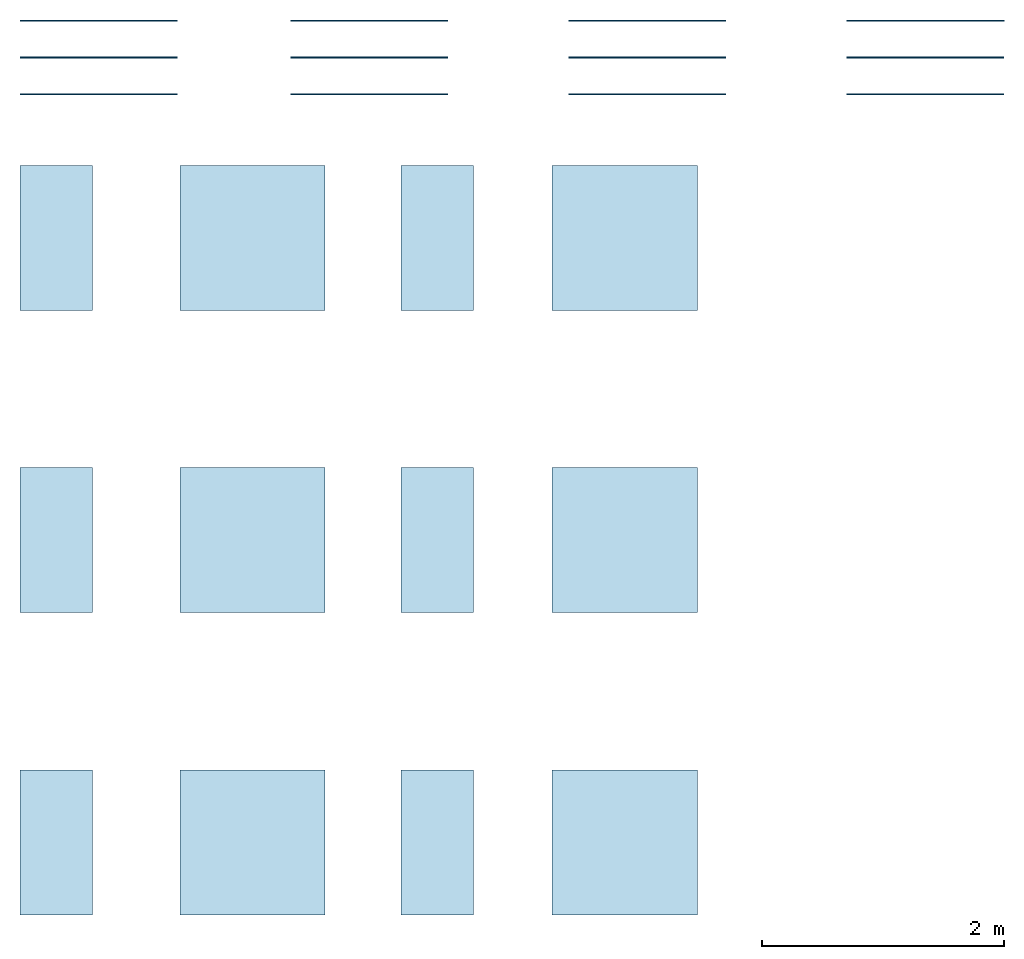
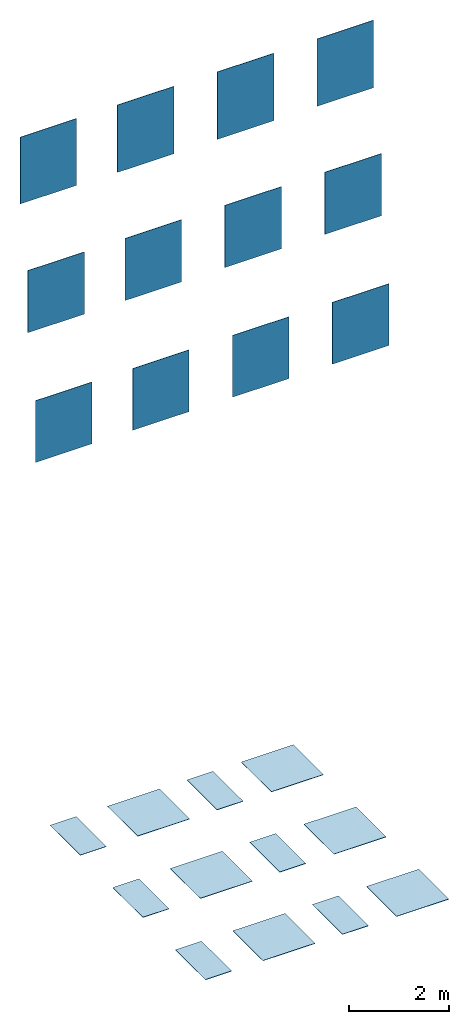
# One storey: 12 slabs, 12 walls.
"""IFC2X3 building model written with IfcOpenShell, lengths in millimetres."""

import ifcopenshell
import ifcopenshell.guid

model = None  # the IFC model being written
_history = None  # IfcOwnerHistory: only IFC2X3 demands one
_inside = {}  # id of a spatial element -> (the spatial element, [elements in it])
_under = {}  # id of a project, library or spatial element -> (it, [spatial elements below it])
_declared = {}  # id of a project -> (the project, [libraries it declares])
_typed = {}  # id of a type object -> (the type object, [elements of that type])
_made_of = {}  # id of a material, layer set ... -> (it, [elements and type objects made of it])


def new_model(schema):
    """Start an empty IFC model of exactly this schema.

    Asked for "IFC4X3", IfcOpenShell would pick the latest addendum, in which some entities
    have other attributes; the version numbers below select the first issue.
    IFC2X3 requires an IfcOwnerHistory on every rooted entity: one is made here for all.
    """
    global model, _history
    if schema == "IFC4X3":
        model = ifcopenshell.file(schema_version=(4, 3, 0, 0))
    else:
        model = ifcopenshell.file(schema=schema)
    _inside.clear()
    _under.clear()
    _declared.clear()
    _typed.clear()
    _made_of.clear()
    _history = None
    if model.schema == "IFC2X3":
        org = make("IfcOrganization", Name="unknown")
        user = make(
            "IfcPersonAndOrganization",
            ThePerson=make("IfcPerson", FamilyName="unknown"),
            TheOrganization=org,
        )
        app = make(
            "IfcApplication",
            ApplicationDeveloper=org,
            Version="unknown",
            ApplicationFullName="unknown",
            ApplicationIdentifier="unknown",
        )
        _history = make(
            "IfcOwnerHistory",
            OwningUser=user,
            OwningApplication=app,
            ChangeAction="ADDED",
            CreationDate=0,
        )
    return model


def make(cls, **values):
    """One entity of the class cls with the attributes given. An attribute that is None is left unset."""
    return model.create_entity(
        cls, **{name: value for name, value in values.items() if value is not None}
    )


def entity(cls, *values):
    """Any entity or typed value of the class cls, its attributes in the order of the schema. None: left unset."""
    e = model.create_entity(cls)
    for i, value in enumerate(values):
        if value is not None:
            e[i] = value
    return e


def rooted(cls, **values):
    """An entity with a GlobalId (a new one), such as an element, a storey or a relation."""
    return make(cls, GlobalId=ifcopenshell.guid.new(), OwnerHistory=_history, **values)


def si_unit(unit_type, name, prefix=None):
    """IfcSIUnit, for example si_unit("LENGTHUNIT", "METRE", prefix="MILLI")."""
    return make("IfcSIUnit", UnitType=unit_type, Prefix=prefix, Name=name)


def converted_unit(unit_type, name, factor, base, dimensions=None, offset=None):
    """IfcConversionBasedUnit, such as the inch: factor (a typed value) times the base unit."""
    return make(
        "IfcConversionBasedUnit"
        if offset is None
        else "IfcConversionBasedUnitWithOffset",
        ConversionOffset=offset,
        Dimensions=None
        if dimensions is None
        else entity("IfcDimensionalExponents", *dimensions),
        UnitType=unit_type,
        Name=name,
        ConversionFactor=make(
            "IfcMeasureWithUnit", ValueComponent=factor, UnitComponent=base
        ),
    )


def derived_unit(unit_type, elements):
    """IfcDerivedUnit: a product of units, each with its exponent."""
    return make(
        "IfcDerivedUnit",
        Elements=[
            make("IfcDerivedUnitElement", Unit=unit, Exponent=power)
            for unit, power in elements
        ],
        UnitType=unit_type,
    )


def assignment(units):
    """IfcUnitAssignment: the units of a project."""
    return None if units is None else make("IfcUnitAssignment", Units=units)


def point(xyz):
    """IfcCartesianPoint."""
    return None if xyz is None else make("IfcCartesianPoint", Coordinates=xyz)


def direction(xyz):
    """IfcDirection."""
    return None if xyz is None else make("IfcDirection", DirectionRatios=xyz)


def frame(location, z_axis=None, x_axis=None):
    """IfcAxis2Placement3D, a coordinate frame: its origin and axes. An axis left out is left unset."""
    return make(
        "IfcAxis2Placement3D",
        Location=point(location),
        Axis=direction(z_axis),
        RefDirection=direction(x_axis),
    )


def frame_2d(location, x_axis=None):
    """IfcAxis2Placement2D, a coordinate frame in the plane: its origin and x axis."""
    return make(
        "IfcAxis2Placement2D", Location=point(location), RefDirection=direction(x_axis)
    )


def origin():
    """The frame at (0, 0, 0) with its axes left unset."""
    return frame((0.0, 0.0, 0.0))


def origin_2d_with_axis():
    """The frame at (0, 0) in the plane with the x axis (1, 0) written out."""
    return frame_2d((0.0, 0.0), x_axis=(1.0, 0.0))


def place(relative_to, where):
    """IfcLocalPlacement: puts the frame where relative to a parent placement (None: the world)."""
    return make(
        "IfcLocalPlacement", PlacementRelTo=relative_to, RelativePlacement=where
    )


def context(
    kind, dimensions, precision=None, world=None, true_north=None, identifier=None
):
    """IfcGeometricRepresentationContext, for example the 3D "Model" context."""
    return make(
        "IfcGeometricRepresentationContext",
        ContextIdentifier=identifier,
        ContextType=kind,
        CoordinateSpaceDimension=dimensions,
        Precision=precision,
        WorldCoordinateSystem=world,
        TrueNorth=true_north,
    )


def subcontext(parent, identifier, kind, view, scale=None):
    """IfcGeometricRepresentationSubContext, for example "Body" below "Model"."""
    return make(
        "IfcGeometricRepresentationSubContext",
        ContextIdentifier=identifier,
        ContextType=kind,
        ParentContext=parent,
        TargetScale=scale,
        TargetView=view,
    )


def project(units=None, contexts=None):
    """IfcProject with its units and contexts."""
    return rooted(
        "IfcProject",
        Name="project",
        RepresentationContexts=contexts,
        UnitsInContext=assignment(units),
    )


def spatial(cls, under=None, at=None, **own):
    """A site, building, storey or space (cls), placed at a placement, below another one or the project."""
    s = rooted(cls, ObjectPlacement=at, **own)
    if under is not None:
        _under.setdefault(under.id(), (under, []))[1].append(s)
    return s


def profile(cls, at=None, kind="AREA", **sizes):
    """A parametric profile (cls). Its sizes go by their IFC names, for example OverallWidth=200.0."""
    return make(cls, ProfileType=kind, Position=at, **sizes)


def rectangle(**sizes):
    """IfcRectangleProfileDef."""
    return profile("IfcRectangleProfileDef", **sizes)


def extrude(swept, where, along, depth):
    """IfcExtrudedAreaSolid: the profile swept, set in the frame where, extruded along a direction by depth."""
    return make(
        "IfcExtrudedAreaSolid",
        SweptArea=swept,
        Position=where,
        ExtrudedDirection=direction(along),
        Depth=depth,
    )


def shape(context_of_items, identifier, shape_type, items):
    """IfcShapeRepresentation: the items that make up one representation, for example the "Body"."""
    return make(
        "IfcShapeRepresentation",
        ContextOfItems=context_of_items,
        RepresentationIdentifier=identifier,
        RepresentationType=shape_type,
        Items=items,
    )


def material(Name=None, Category=None):
    """IfcMaterial."""
    return make("IfcMaterial", Name=Name, Category=Category)


def layer(
    of_material, thickness, ventilated=None, Name=None, Category=None, Priority=None
):
    """IfcMaterialLayer: one layer of a wall or slab, of a material (None: an air gap)."""
    return make(
        "IfcMaterialLayer",
        Material=of_material,
        LayerThickness=thickness,
        IsVentilated=ventilated,
        Name=Name,
        Category=Category,
        Priority=Priority,
    )


def layer_set(layers, Name=None):
    """IfcMaterialLayerSet."""
    return make("IfcMaterialLayerSet", MaterialLayers=layers, LayerSetName=Name)


def layer_usage(for_layer_set, set_direction, sense, offset, extent=None):
    """IfcMaterialLayerSetUsage: how a layer set lies in its element."""
    return make(
        "IfcMaterialLayerSetUsage",
        ForLayerSet=for_layer_set,
        LayerSetDirection=set_direction,
        DirectionSense=sense,
        OffsetFromReferenceLine=offset,
        ReferenceExtent=extent,
    )


def made_of(thing, what):
    """Note that an element or type object is made of a material, layer set ...; save() writes the relation."""
    if what is not None:
        _made_of.setdefault(what.id(), (what, []))[1].append(thing)
    return thing


def type_object(cls, material=None, **own):
    """A type object (cls), such as IfcWallType, which elements share."""
    return made_of(rooted(cls, **own), material)


def element(
    cls,
    number,
    at=None,
    inside=None,
    cuts=None,
    type_object=None,
    material=None,
    context=None,
    identifier="Body",
    shape_type=None,
    held_by="IfcProductDefinitionShape",
    body=None,
    shapes=None,
    **own,
):
    """One element of the class cls, such as IfcWall. Its Tag is "e" and its number.

    at: its placement. inside: the storey or other place that contains it. cuts: it is an
    opening in that element (IfcRelVoidsElement). A single representation is given by context,
    identifier, shape_type and body (its items); several are given by shapes. held_by: the class
    of the entity that holds the representations. save() writes the other relations.
    """
    e = rooted(cls, Tag="e%d" % number, ObjectPlacement=at, **own)
    if body is not None:
        shapes = [shape(context, identifier, shape_type, body)]
    if shapes is not None:
        e.Representation = make(held_by, Representations=shapes)
    if inside is not None:
        _inside.setdefault(inside.id(), (inside, []))[1].append(e)
    if cuts is not None:
        rooted(
            "IfcRelVoidsElement", RelatingBuildingElement=cuts, RelatedOpeningElement=e
        )
    if type_object is not None:
        _typed.setdefault(type_object.id(), (type_object, []))[1].append(e)
    return made_of(e, material)


def aggregate(whole, parts):
    """IfcRelAggregates: a whole, such as a stair, and the parts it consists of."""
    return rooted("IfcRelAggregates", RelatingObject=whole, RelatedObjects=parts)


def save(model, path):
    """Write the relations noted so far, then the file.

    IfcRelAggregates (storeys below a building ...), IfcRelContainedInSpatialStructure (elements
    in a storey), IfcRelDefinesByType, IfcRelAssociatesMaterial and IfcRelDeclares: one each for
    every whole, place, type object, material and project.
    """
    for whole, parts in _under.values():
        aggregate(whole, parts)
    for where, things in _inside.values():
        rooted(
            "IfcRelContainedInSpatialStructure",
            RelatedElements=things,
            RelatingStructure=where,
        )
    for kind, things in _typed.values():
        rooted("IfcRelDefinesByType", RelatedObjects=things, RelatingType=kind)
    for what, things in _made_of.values():
        rooted("IfcRelAssociatesMaterial", RelatedObjects=things, RelatingMaterial=what)
    for by, libraries in _declared.values():
        rooted("IfcRelDeclares", RelatingContext=by, RelatedDefinitions=libraries)
    model.write(path)


model = new_model("IFC2X3")

# Units and contexts
model_context = context("Model", 3, precision=0.01, world=origin(), true_north=direction((6.123031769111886e-17, 1.0)))
body_context = subcontext(model_context, "Body", "Model", "MODEL_VIEW")
ifc_project = project(units=[si_unit("LENGTHUNIT", "METRE", prefix="MILLI"), si_unit("AREAUNIT", "SQUARE_METRE"), si_unit("VOLUMEUNIT", "CUBIC_METRE"), converted_unit("PLANEANGLEUNIT", "DEGREE", entity("IfcPlaneAngleMeasure", 0.017453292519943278), si_unit("PLANEANGLEUNIT", "RADIAN"), dimensions=[0, 0, 0, 0, 0, 0, 0]), si_unit("MASSUNIT", "GRAM", prefix="KILO"), derived_unit("MASSDENSITYUNIT", [(si_unit("MASSUNIT", "GRAM", prefix="KILO"), 1), (si_unit("LENGTHUNIT", "METRE"), -3)]), derived_unit("IONCONCENTRATIONUNIT", [(si_unit("MASSUNIT", "GRAM", prefix="KILO"), 1), (si_unit("LENGTHUNIT", "METRE"), -3)]), derived_unit("MOMENTOFINERTIAUNIT", [(si_unit("LENGTHUNIT", "METRE"), 4)]), si_unit("TIMEUNIT", "SECOND"), si_unit("FREQUENCYUNIT", "HERTZ"), si_unit("THERMODYNAMICTEMPERATUREUNIT", "DEGREE_CELSIUS"), derived_unit("THERMALTRANSMITTANCEUNIT", [(si_unit("MASSUNIT", "GRAM", prefix="KILO"), 1), (si_unit("THERMODYNAMICTEMPERATUREUNIT", "KELVIN"), -1), (si_unit("TIMEUNIT", "SECOND"), -3)]), derived_unit("THERMALCONDUCTANCEUNIT", [(si_unit("MASSUNIT", "GRAM", prefix="KILO"), 1), (si_unit("THERMODYNAMICTEMPERATUREUNIT", "KELVIN"), -1), (si_unit("TIMEUNIT", "SECOND"), -3), (si_unit("LENGTHUNIT", "METRE"), 1)]), derived_unit("VOLUMETRICFLOWRATEUNIT", [(si_unit("LENGTHUNIT", "METRE", prefix="DECI"), 3), (si_unit("TIMEUNIT", "SECOND"), -1)]), derived_unit("MASSFLOWRATEUNIT", [(si_unit("MASSUNIT", "GRAM", prefix="KILO"), 1), (si_unit("TIMEUNIT", "SECOND"), -1)]), derived_unit("ROTATIONALFREQUENCYUNIT", [(si_unit("TIMEUNIT", "SECOND"), -1)]), si_unit("ELECTRICCURRENTUNIT", "AMPERE"), si_unit("ELECTRICVOLTAGEUNIT", "VOLT"), si_unit("POWERUNIT", "WATT"), si_unit("FORCEUNIT", "NEWTON", prefix="KILO"), si_unit("ILLUMINANCEUNIT", "LUX"), si_unit("LUMINOUSFLUXUNIT", "LUMEN"), si_unit("LUMINOUSINTENSITYUNIT", "CANDELA"), si_unit("ENERGYUNIT", "JOULE"), derived_unit("USERDEFINED", [(si_unit("MASSUNIT", "GRAM", prefix="KILO"), -1), (si_unit("LENGTHUNIT", "METRE"), -2), (si_unit("TIMEUNIT", "SECOND"), 3), (si_unit("LUMINOUSFLUXUNIT", "LUMEN"), 1)]), derived_unit("USERDEFINED", [(si_unit("MASSUNIT", "GRAM", prefix="KILO"), 1), (si_unit("TIMEUNIT", "SECOND"), -3), (si_unit("LENGTHUNIT", "METRE"), 3), (si_unit("ELECTRICCURRENTUNIT", "AMPERE"), -2)]), derived_unit("SOUNDPOWERUNIT", [(si_unit("MASSUNIT", "GRAM", prefix="KILO"), 1), (si_unit("TIMEUNIT", "SECOND"), -3), (si_unit("LENGTHUNIT", "METRE"), 2)]), derived_unit("SOUNDPRESSUREUNIT", [(si_unit("MASSUNIT", "GRAM", prefix="KILO"), 1), (si_unit("LENGTHUNIT", "METRE"), -1), (si_unit("TIMEUNIT", "SECOND"), -2)]), derived_unit("LINEARVELOCITYUNIT", [(si_unit("LENGTHUNIT", "METRE"), 1), (si_unit("TIMEUNIT", "SECOND"), -1)]), si_unit("PRESSUREUNIT", "PASCAL"), derived_unit("USERDEFINED", [(si_unit("MASSUNIT", "GRAM", prefix="KILO"), 1), (si_unit("LENGTHUNIT", "METRE"), -2), (si_unit("TIMEUNIT", "SECOND"), -2)]), derived_unit("LINEARFORCEUNIT", [(si_unit("MASSUNIT", "GRAM", prefix="KILO"), 1), (si_unit("TIMEUNIT", "SECOND"), -2)]), derived_unit("PLANARFORCEUNIT", [(si_unit("MASSUNIT", "GRAM", prefix="KILO"), 1), (si_unit("LENGTHUNIT", "METRE"), -1), (si_unit("TIMEUNIT", "SECOND"), -2)]), derived_unit("SPECIFICHEATCAPACITYUNIT", [(si_unit("THERMODYNAMICTEMPERATUREUNIT", "KELVIN"), -1), (si_unit("LENGTHUNIT", "METRE"), 2), (si_unit("TIMEUNIT", "SECOND"), -2)]), derived_unit("HEATFLUXDENSITYUNIT", [(si_unit("MASSUNIT", "GRAM", prefix="KILO"), 1), (si_unit("TIMEUNIT", "SECOND"), -3)]), derived_unit("HEATINGVALUEUNIT", [(si_unit("LENGTHUNIT", "METRE"), 2), (si_unit("TIMEUNIT", "SECOND"), -2)]), derived_unit("VAPORPERMEABILITYUNIT", [(si_unit("LENGTHUNIT", "METRE"), -1), (si_unit("TIMEUNIT", "SECOND"), 1)]), derived_unit("DYNAMICVISCOSITYUNIT", [(si_unit("MASSUNIT", "GRAM", prefix="KILO"), 1), (si_unit("TIMEUNIT", "SECOND"), -1), (si_unit("LENGTHUNIT", "METRE"), -1)]), derived_unit("THERMALEXPANSIONCOEFFICIENTUNIT", [(si_unit("THERMODYNAMICTEMPERATUREUNIT", "KELVIN"), -1)]), derived_unit("MODULUSOFELASTICITYUNIT", [(si_unit("MASSUNIT", "GRAM", prefix="KILO"), 1), (si_unit("LENGTHUNIT", "METRE"), -1), (si_unit("TIMEUNIT", "SECOND"), -2)]), derived_unit("ISOTHERMALMOISTURECAPACITYUNIT", [(si_unit("MASSUNIT", "GRAM", prefix="KILO"), -1), (si_unit("LENGTHUNIT", "METRE"), 3)]), derived_unit("MOISTUREDIFFUSIVITYUNIT", [(si_unit("TIMEUNIT", "SECOND"), -1), (si_unit("LENGTHUNIT", "METRE"), 2)]), derived_unit("MASSPERLENGTHUNIT", [(si_unit("MASSUNIT", "GRAM", prefix="KILO"), 1), (si_unit("LENGTHUNIT", "METRE"), -1)]), derived_unit("THERMALRESISTANCEUNIT", [(si_unit("MASSUNIT", "GRAM", prefix="KILO"), -1), (si_unit("TIMEUNIT", "SECOND"), 3), (si_unit("THERMODYNAMICTEMPERATUREUNIT", "KELVIN"), 1)]), derived_unit("ACCELERATIONUNIT", [(si_unit("LENGTHUNIT", "METRE"), 1), (si_unit("TIMEUNIT", "SECOND"), -2)]), derived_unit("ANGULARVELOCITYUNIT", [(si_unit("TIMEUNIT", "SECOND"), -1), (si_unit("PLANEANGLEUNIT", "RADIAN"), 1)]), derived_unit("LINEARSTIFFNESSUNIT", [(si_unit("MASSUNIT", "GRAM", prefix="KILO"), 1), (si_unit("TIMEUNIT", "SECOND"), -2)]), derived_unit("WARPINGCONSTANTUNIT", [(si_unit("LENGTHUNIT", "METRE"), 6)]), derived_unit("LINEARMOMENTUNIT", [(si_unit("MASSUNIT", "GRAM", prefix="KILO"), 1), (si_unit("LENGTHUNIT", "METRE"), 1), (si_unit("TIMEUNIT", "SECOND"), -2)]), derived_unit("TORQUEUNIT", [(si_unit("MASSUNIT", "GRAM", prefix="KILO"), 1), (si_unit("LENGTHUNIT", "METRE"), 2), (si_unit("TIMEUNIT", "SECOND"), -2)])], contexts=[model_context])

# Site, building, storey
site_placement = place(None, origin())
site = spatial("IfcSite", under=ifc_project, at=site_placement, Name="Default", CompositionType="ELEMENT")
building_placement = place(site_placement, origin())
building = spatial("IfcBuilding", under=site, at=building_placement, CompositionType="ELEMENT")
storey_placement = place(building_placement, origin())
storey = spatial("IfcBuildingStorey", under=building, at=storey_placement, Name="Level 0", CompositionType="ELEMENT", Elevation=0.0)

# Slabs
ifc_material_1 = material(Name="Cera-Scaglie-Fumo-Cerasilk-60x120 RF40")
ifc_layer_1 = layer(ifc_material_1, 9.0)
ifc_material_2 = material(Name="<Unnamed>")
ifc_layer_2 = layer(ifc_material_2, 1.0)
ifc_layer_set_1 = layer_set([ifc_layer_1, ifc_layer_2], Name="Floor:Floor_Tiles_Refin-Cera-Scaglie-Fumo-Cerasilk-60x120 RF40")
ifc_layer_usage_1 = layer_usage(ifc_layer_set_1, "AXIS3", "POSITIVE", 0.0)
slab_type_1 = type_object("IfcSlabType", Name="Floor:Floor_Tiles_Refin-Cera-Scaglie-Fumo-Cerasilk-60x120 RF40", PredefinedType="FLOOR", material=ifc_layer_set_1)
slab_1_placement = place(storey_placement, origin())
element("IfcSlab", 1, at=slab_1_placement, inside=storey, type_object=slab_type_1, material=ifc_layer_usage_1, Name="Floor:Floor_Tiles_Refin-Cera-Scaglie-Fumo-Cerasilk-60x120 RF40", ObjectType="Floor:Floor_Tiles_Refin-Cera-Scaglie-Fumo-Cerasilk-60x120 RF40", PredefinedType="FLOOR", context=body_context, shape_type="SweptSolid", body=[
    extrude(rectangle(XDim=1200.0, YDim=600.0, at=frame_2d((0.0, -1.0800249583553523e-12), x_axis=(1.0, 0.0))), frame((6674.3752061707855, 6339.462374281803, 0.0), z_axis=(0.0, 0.0, -1.0), x_axis=(0.0, 1.0, 0.0)), (0.0, 0.0, 1.0), 10.0),
])
ifc_material_3 = material(Name="Cera-Scaglie-Fumo-Cerasilk-120x120 RG00")
ifc_layer_3 = layer(ifc_material_3, 9.0)
ifc_layer_4 = layer(ifc_material_2, 1.0)
ifc_layer_set_2 = layer_set([ifc_layer_3, ifc_layer_4], Name="Floor:Floor_Tiles_Refin-Cera-Scaglie-Fumo-Cerasilk-120x120 RG00")
ifc_layer_usage_2 = layer_usage(ifc_layer_set_2, "AXIS3", "POSITIVE", 0.0)
slab_type_2 = type_object("IfcSlabType", Name="Floor:Floor_Tiles_Refin-Cera-Scaglie-Fumo-Cerasilk-120x120 RG00", PredefinedType="FLOOR", material=ifc_layer_set_2)
slab_2_placement = place(storey_placement, origin())
element("IfcSlab", 2, at=slab_2_placement, inside=storey, type_object=slab_type_2, material=ifc_layer_usage_2, Name="Floor:Floor_Tiles_Refin-Cera-Scaglie-Fumo-Cerasilk-120x120 RG00", ObjectType="Floor:Floor_Tiles_Refin-Cera-Scaglie-Fumo-Cerasilk-120x120 RG00", PredefinedType="FLOOR", context=body_context, shape_type="SweptSolid", body=[
    extrude(rectangle(XDim=1200.0, YDim=1200.0, at=origin_2d_with_axis()), frame((8297.392405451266, 6339.4623742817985, 0.0), z_axis=(0.0, 0.0, -1.0), x_axis=(0.0, 1.0, 0.0)), (0.0, 0.0, 1.0), 10.0),
])
ifc_material_4 = material(Name="Cera-Scaglie-Fumo-Matt-Pro-60x120 RG06")
ifc_layer_5 = layer(ifc_material_4, 9.0)
ifc_layer_6 = layer(ifc_material_2, 1.0)
ifc_layer_set_3 = layer_set([ifc_layer_5, ifc_layer_6], Name="Floor:Floor_Tiles_Refin-Cera-Scaglie-Fumo-Matt-Pro-60x120 RG06")
ifc_layer_usage_3 = layer_usage(ifc_layer_set_3, "AXIS3", "POSITIVE", 0.0)
slab_type_3 = type_object("IfcSlabType", Name="Floor:Floor_Tiles_Refin-Cera-Scaglie-Fumo-Matt-Pro-60x120 RG06", PredefinedType="FLOOR", material=ifc_layer_set_3)
slab_3_placement = place(storey_placement, origin())
element("IfcSlab", 3, at=slab_3_placement, inside=storey, type_object=slab_type_3, material=ifc_layer_usage_3, Name="Floor:Floor_Tiles_Refin-Cera-Scaglie-Fumo-Matt-Pro-60x120 RG06", ObjectType="Floor:Floor_Tiles_Refin-Cera-Scaglie-Fumo-Matt-Pro-60x120 RG06", PredefinedType="FLOOR", context=body_context, shape_type="SweptSolid", body=[
    extrude(rectangle(XDim=1200.0, YDim=600.0, at=frame_2d((0.0, 1.0800249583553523e-12), x_axis=(1.0, 0.0))), frame((9827.186141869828, 6339.462374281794, 0.0), z_axis=(0.0, 0.0, -1.0), x_axis=(0.0, 1.0, 0.0)), (0.0, 0.0, 1.0), 10.0),
])
ifc_material_5 = material(Name="Cera-Scaglie-Fumo-Matt-Pro-120x120 RG03")
ifc_layer_7 = layer(ifc_material_5, 9.0)
ifc_layer_8 = layer(ifc_material_2, 1.0)
ifc_layer_set_4 = layer_set([ifc_layer_7, ifc_layer_8], Name="Floor:Floor_Tiles_Refin-Cera-Scaglie-Fumo-Matt-Pro-120x120 RG03")
ifc_layer_usage_4 = layer_usage(ifc_layer_set_4, "AXIS3", "POSITIVE", 0.0)
slab_type_4 = type_object("IfcSlabType", Name="Floor:Floor_Tiles_Refin-Cera-Scaglie-Fumo-Matt-Pro-120x120 RG03", PredefinedType="FLOOR", material=ifc_layer_set_4)
slab_4_placement = place(storey_placement, origin())
element("IfcSlab", 4, at=slab_4_placement, inside=storey, type_object=slab_type_4, material=ifc_layer_usage_4, Name="Floor:Floor_Tiles_Refin-Cera-Scaglie-Fumo-Matt-Pro-120x120 RG03", ObjectType="Floor:Floor_Tiles_Refin-Cera-Scaglie-Fumo-Matt-Pro-120x120 RG03", PredefinedType="FLOOR", context=body_context, shape_type="SweptSolid", body=[
    extrude(rectangle(XDim=1200.0, YDim=1200.0, at=origin_2d_with_axis()), frame((11376.979878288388, 6339.462374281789, 0.0), z_axis=(0.0, 0.0, -1.0), x_axis=(0.0, 1.0, 0.0)), (0.0, 0.0, 1.0), 10.0),
])
ifc_material_6 = material(Name="Cera-Scaglie-Incenso-Cerasilk-60x120 RF41")
ifc_layer_9 = layer(ifc_material_6, 9.0)
ifc_layer_10 = layer(ifc_material_2, 1.0)
ifc_layer_set_5 = layer_set([ifc_layer_9, ifc_layer_10], Name="Floor:Floor_Tiles_Refin-Cera-Scaglie-Incenso-Cerasilk-60x120 RF41")
ifc_layer_usage_5 = layer_usage(ifc_layer_set_5, "AXIS3", "POSITIVE", 0.0)
slab_type_5 = type_object("IfcSlabType", Name="Floor:Floor_Tiles_Refin-Cera-Scaglie-Incenso-Cerasilk-60x120 RF41", PredefinedType="FLOOR", material=ifc_layer_set_5)
slab_5_placement = place(storey_placement, origin())
element("IfcSlab", 5, at=slab_5_placement, inside=storey, type_object=slab_type_5, material=ifc_layer_usage_5, Name="Floor:Floor_Tiles_Refin-Cera-Scaglie-Incenso-Cerasilk-60x120 RF41", ObjectType="Floor:Floor_Tiles_Refin-Cera-Scaglie-Incenso-Cerasilk-60x120 RF41", PredefinedType="FLOOR", context=body_context, shape_type="SweptSolid", body=[
    extrude(rectangle(XDim=1200.0, YDim=600.0, at=frame_2d((0.0, 1.0800249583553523e-12), x_axis=(1.0, 0.0))), frame((6674.375206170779, 3839.4623742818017, 0.0), z_axis=(0.0, 0.0, -1.0), x_axis=(0.0, 1.0, 0.0)), (0.0, 0.0, 1.0), 10.0),
])
ifc_material_7 = material(Name="Cera-Scaglie-Incenso-Cerasilk-120x120 RG01")
ifc_layer_11 = layer(ifc_material_7, 9.0)
ifc_layer_12 = layer(ifc_material_2, 1.0)
ifc_layer_set_6 = layer_set([ifc_layer_11, ifc_layer_12], Name="Floor:Floor_Tiles_Refin-Cera-Scaglie-Incenso-Cerasilk-120x120 RG01")
ifc_layer_usage_6 = layer_usage(ifc_layer_set_6, "AXIS3", "POSITIVE", 0.0)
slab_type_6 = type_object("IfcSlabType", Name="Floor:Floor_Tiles_Refin-Cera-Scaglie-Incenso-Cerasilk-120x120 RG01", PredefinedType="FLOOR", material=ifc_layer_set_6)
slab_6_placement = place(storey_placement, origin())
element("IfcSlab", 6, at=slab_6_placement, inside=storey, type_object=slab_type_6, material=ifc_layer_usage_6, Name="Floor:Floor_Tiles_Refin-Cera-Scaglie-Incenso-Cerasilk-120x120 RG01", ObjectType="Floor:Floor_Tiles_Refin-Cera-Scaglie-Incenso-Cerasilk-120x120 RG01", PredefinedType="FLOOR", context=body_context, shape_type="SweptSolid", body=[
    extrude(rectangle(XDim=1200.0, YDim=1200.0, at=origin_2d_with_axis()), frame((8297.392405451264, 3839.462374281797, 0.0), z_axis=(0.0, 0.0, -1.0), x_axis=(0.0, 1.0, 0.0)), (0.0, 0.0, 1.0), 10.0),
])
ifc_material_8 = material(Name="Cera-Scaglie-Incenso-Matt-Pro-60x120 RG07")
ifc_layer_13 = layer(ifc_material_8, 9.0)
ifc_layer_14 = layer(ifc_material_2, 1.0)
ifc_layer_set_7 = layer_set([ifc_layer_13, ifc_layer_14], Name="Floor:Floor_Tiles_Refin-Cera-Scaglie-Incenso-Matt-Pro-60x120 RG07")
ifc_layer_usage_7 = layer_usage(ifc_layer_set_7, "AXIS3", "POSITIVE", 0.0)
slab_type_7 = type_object("IfcSlabType", Name="Floor:Floor_Tiles_Refin-Cera-Scaglie-Incenso-Matt-Pro-60x120 RG07", PredefinedType="FLOOR", material=ifc_layer_set_7)
slab_7_placement = place(storey_placement, origin())
element("IfcSlab", 7, at=slab_7_placement, inside=storey, type_object=slab_type_7, material=ifc_layer_usage_7, Name="Floor:Floor_Tiles_Refin-Cera-Scaglie-Incenso-Matt-Pro-60x120 RG07", ObjectType="Floor:Floor_Tiles_Refin-Cera-Scaglie-Incenso-Matt-Pro-60x120 RG07", PredefinedType="FLOOR", context=body_context, shape_type="SweptSolid", body=[
    extrude(rectangle(XDim=1200.0, YDim=600.0, at=frame_2d((0.0, -1.0800249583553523e-12), x_axis=(1.0, 0.0))), frame((9827.186141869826, 3839.462374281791, 0.0), z_axis=(0.0, 0.0, -1.0), x_axis=(0.0, 1.0, 0.0)), (0.0, 0.0, 1.0), 10.0),
])
ifc_material_9 = material(Name="Cera-Scaglie-Incenso-Matt-Pro-120x120 RG04")
ifc_layer_15 = layer(ifc_material_9, 9.0)
ifc_layer_16 = layer(ifc_material_2, 1.0)
ifc_layer_set_8 = layer_set([ifc_layer_15, ifc_layer_16], Name="Floor:Floor_Tiles_Refin-Cera-Scaglie-Incenso-Matt-Pro-120x120 RG04")
ifc_layer_usage_8 = layer_usage(ifc_layer_set_8, "AXIS3", "POSITIVE", 0.0)
slab_type_8 = type_object("IfcSlabType", Name="Floor:Floor_Tiles_Refin-Cera-Scaglie-Incenso-Matt-Pro-120x120 RG04", PredefinedType="FLOOR", material=ifc_layer_set_8)
slab_8_placement = place(storey_placement, origin())
element("IfcSlab", 8, at=slab_8_placement, inside=storey, type_object=slab_type_8, material=ifc_layer_usage_8, Name="Floor:Floor_Tiles_Refin-Cera-Scaglie-Incenso-Matt-Pro-120x120 RG04", ObjectType="Floor:Floor_Tiles_Refin-Cera-Scaglie-Incenso-Matt-Pro-120x120 RG04", PredefinedType="FLOOR", context=body_context, shape_type="SweptSolid", body=[
    extrude(rectangle(XDim=1200.0, YDim=1200.0, at=origin_2d_with_axis()), frame((11376.979878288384, 3839.4623742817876, 0.0), z_axis=(0.0, 0.0, -1.0), x_axis=(0.0, 1.0, 0.0)), (0.0, 0.0, 1.0), 10.0),
])
ifc_material_10 = material(Name="Cera-Scaglie-Multicolor-Cerasilk-60x120 RF42")
ifc_layer_17 = layer(ifc_material_10, 9.0)
ifc_layer_18 = layer(ifc_material_2, 1.0)
ifc_layer_set_9 = layer_set([ifc_layer_17, ifc_layer_18], Name="Floor:Floor_Tiles_Refin-Cera-Scaglie-Multicolor-Cerasilk-60x120 RF42")
ifc_layer_usage_9 = layer_usage(ifc_layer_set_9, "AXIS3", "POSITIVE", 0.0)
slab_type_9 = type_object("IfcSlabType", Name="Floor:Floor_Tiles_Refin-Cera-Scaglie-Multicolor-Cerasilk-60x120 RF42", PredefinedType="FLOOR", material=ifc_layer_set_9)
slab_9_placement = place(storey_placement, origin())
element("IfcSlab", 9, at=slab_9_placement, inside=storey, type_object=slab_type_9, material=ifc_layer_usage_9, Name="Floor:Floor_Tiles_Refin-Cera-Scaglie-Multicolor-Cerasilk-60x120 RF42", ObjectType="Floor:Floor_Tiles_Refin-Cera-Scaglie-Multicolor-Cerasilk-60x120 RF42", PredefinedType="FLOOR", context=body_context, shape_type="SweptSolid", body=[
    extrude(rectangle(XDim=1200.0, YDim=600.0, at=frame_2d((0.0, -1.0800249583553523e-12), x_axis=(1.0, 0.0))), frame((6674.375206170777, 1339.4623742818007, 0.0), z_axis=(0.0, 0.0, -1.0), x_axis=(0.0, 1.0, 0.0)), (0.0, 0.0, 1.0), 10.0),
])
ifc_material_11 = material(Name="Cera-Scaglie-Multicolor-Cerasilk-120x120 RG02")
ifc_layer_19 = layer(ifc_material_11, 9.0)
ifc_layer_20 = layer(ifc_material_2, 1.0)
ifc_layer_set_10 = layer_set([ifc_layer_19, ifc_layer_20], Name="Floor:Floor_Tiles_Refin-Cera-Scaglie-Multicolor-Cerasilk-120x120 RG02")
ifc_layer_usage_10 = layer_usage(ifc_layer_set_10, "AXIS3", "POSITIVE", 0.0)
slab_type_10 = type_object("IfcSlabType", Name="Floor:Floor_Tiles_Refin-Cera-Scaglie-Multicolor-Cerasilk-120x120 RG02", PredefinedType="FLOOR", material=ifc_layer_set_10)
slab_10_placement = place(storey_placement, origin())
element("IfcSlab", 10, at=slab_10_placement, inside=storey, type_object=slab_type_10, material=ifc_layer_usage_10, Name="Floor:Floor_Tiles_Refin-Cera-Scaglie-Multicolor-Cerasilk-120x120 RG02", ObjectType="Floor:Floor_Tiles_Refin-Cera-Scaglie-Multicolor-Cerasilk-120x120 RG02", PredefinedType="FLOOR", context=body_context, shape_type="SweptSolid", body=[
    extrude(rectangle(XDim=1200.0, YDim=1200.0, at=origin_2d_with_axis()), frame((8297.39240545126, 1339.4623742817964, 0.0), z_axis=(0.0, 0.0, -1.0), x_axis=(0.0, 1.0, 0.0)), (0.0, 0.0, 1.0), 10.0),
])
ifc_material_12 = material(Name="Cera-Scaglie-Multicolor-Matt-Pro-60x120 RG08")
ifc_layer_21 = layer(ifc_material_12, 9.0)
ifc_layer_22 = layer(ifc_material_2, 1.0)
ifc_layer_set_11 = layer_set([ifc_layer_21, ifc_layer_22], Name="Floor:Floor_Tiles_Refin-Cera-Scaglie-Multicolor-Matt-Pro-60x120 RG08")
ifc_layer_usage_11 = layer_usage(ifc_layer_set_11, "AXIS3", "POSITIVE", 0.0)
slab_type_11 = type_object("IfcSlabType", Name="Floor:Floor_Tiles_Refin-Cera-Scaglie-Multicolor-Matt-Pro-60x120 RG08", PredefinedType="FLOOR", material=ifc_layer_set_11)
slab_11_placement = place(storey_placement, origin())
element("IfcSlab", 11, at=slab_11_placement, inside=storey, type_object=slab_type_11, material=ifc_layer_usage_11, Name="Floor:Floor_Tiles_Refin-Cera-Scaglie-Multicolor-Matt-Pro-60x120 RG08", ObjectType="Floor:Floor_Tiles_Refin-Cera-Scaglie-Multicolor-Matt-Pro-60x120 RG08", PredefinedType="FLOOR", context=body_context, shape_type="SweptSolid", body=[
    extrude(rectangle(XDim=1200.0, YDim=600.0, at=frame_2d((0.0, 1.0800249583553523e-12), x_axis=(1.0, 0.0))), frame((9827.18614186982, 1339.462374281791, 0.0), z_axis=(0.0, 0.0, -1.0), x_axis=(0.0, 1.0, 0.0)), (0.0, 0.0, 1.0), 10.0),
])
ifc_material_13 = material(Name="Cera-Scaglie-Multicolor-Matt-Pro-120x120 RG05")
ifc_layer_23 = layer(ifc_material_13, 9.0)
ifc_layer_24 = layer(ifc_material_2, 1.0)
ifc_layer_set_12 = layer_set([ifc_layer_23, ifc_layer_24], Name="Floor:Floor_Tiles_Refin-Cera-Scaglie-Multicolor-Matt-Pro-120x120 RG05")
ifc_layer_usage_12 = layer_usage(ifc_layer_set_12, "AXIS3", "POSITIVE", 0.0)
slab_type_12 = type_object("IfcSlabType", Name="Floor:Floor_Tiles_Refin-Cera-Scaglie-Multicolor-Matt-Pro-120x120 RG05", PredefinedType="FLOOR", material=ifc_layer_set_12)
slab_12_placement = place(storey_placement, origin())
element("IfcSlab", 12, at=slab_12_placement, inside=storey, type_object=slab_type_12, material=ifc_layer_usage_12, Name="Floor:Floor_Tiles_Refin-Cera-Scaglie-Multicolor-Matt-Pro-120x120 RG05", ObjectType="Floor:Floor_Tiles_Refin-Cera-Scaglie-Multicolor-Matt-Pro-120x120 RG05", PredefinedType="FLOOR", context=body_context, shape_type="SweptSolid", body=[
    extrude(rectangle(XDim=1200.0, YDim=1200.0, at=origin_2d_with_axis()), frame((11376.979878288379, 1339.4623742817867, 0.0), z_axis=(0.0, 0.0, -1.0), x_axis=(0.0, 1.0, 0.0)), (0.0, 0.0, 1.0), 10.0),
])

# Walls
ifc_layer_25 = layer(ifc_material_2, 1.0)
ifc_layer_26 = layer(ifc_material_3, 9.0)
ifc_layer_set_13 = layer_set([ifc_layer_25, ifc_layer_26], Name="Basic Wall:Wall_Tiles_Refin-Cera-Scaglie-Fumo-Cerasilk-120x120 RG00")
ifc_layer_usage_13 = layer_usage(ifc_layer_set_13, "AXIS2", "NEGATIVE", 5.000000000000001)
wall_type_1 = type_object("IfcWallType", Name="Basic Wall:Wall_Tiles_Refin-Cera-Scaglie-Fumo-Cerasilk-120x120 RG00", PredefinedType="STANDARD", material=ifc_layer_set_13)
wall_1_placement = place(storey_placement, frame((8614.375206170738, 8137.38386313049, 14387.677044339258)))
element("IfcWallStandardCase", 13, at=wall_1_placement, inside=storey, type_object=wall_type_1, material=ifc_layer_usage_13, Name="Basic Wall:Wall_Tiles_Refin-Cera-Scaglie-Fumo-Cerasilk-120x120 RG00", ObjectType="Basic Wall:Wall_Tiles_Refin-Cera-Scaglie-Fumo-Cerasilk-120x120 RG00", context=body_context, shape_type="SweptSolid", body=[
    extrude(rectangle(XDim=1300.0, YDim=9.999999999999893, at=frame_2d((650.0, 7.638334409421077e-14), x_axis=(-1.0, 0.0))), origin(), (0.0, 0.0, 1.0), 1641.7417352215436),
])
ifc_layer_27 = layer(ifc_material_2, 1.0)
ifc_layer_28 = layer(ifc_material_4, 9.0)
ifc_layer_set_14 = layer_set([ifc_layer_27, ifc_layer_28], Name="Basic Wall:Wall_Tiles_Refin-Cera-Scaglie-Fumo-Matt-Pro-60x120 RG06")
ifc_layer_usage_14 = layer_usage(ifc_layer_set_14, "AXIS2", "NEGATIVE", 5.000000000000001)
wall_type_2 = type_object("IfcWallType", Name="Basic Wall:Wall_Tiles_Refin-Cera-Scaglie-Fumo-Matt-Pro-60x120 RG06", PredefinedType="STANDARD", material=ifc_layer_set_14)
wall_2_placement = place(storey_placement, frame((10914.37520617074, 8137.383863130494, 14387.677044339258)))
element("IfcWallStandardCase", 14, at=wall_2_placement, inside=storey, type_object=wall_type_2, material=ifc_layer_usage_14, Name="Basic Wall:Wall_Tiles_Refin-Cera-Scaglie-Fumo-Matt-Pro-60x120 RG06", ObjectType="Basic Wall:Wall_Tiles_Refin-Cera-Scaglie-Fumo-Matt-Pro-60x120 RG06", context=body_context, shape_type="SweptSolid", body=[
    extrude(rectangle(XDim=1299.999999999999, YDim=9.999999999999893, at=frame_2d((649.9999999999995, 7.638334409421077e-14), x_axis=(-1.0, 0.0))), origin(), (0.0, 0.0, 1.0), 1641.7417352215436),
])
ifc_layer_29 = layer(ifc_material_2, 1.0)
ifc_layer_30 = layer(ifc_material_1, 9.0)
ifc_layer_set_15 = layer_set([ifc_layer_29, ifc_layer_30], Name="Basic Wall:Wall_Tiles_Refin-Cera-Scaglie-Fumo-Cerasilk-60x120 RF40")
ifc_layer_usage_15 = layer_usage(ifc_layer_set_15, "AXIS2", "NEGATIVE", 5.000000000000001)
wall_type_3 = type_object("IfcWallType", Name="Basic Wall:Wall_Tiles_Refin-Cera-Scaglie-Fumo-Cerasilk-60x120 RF40", PredefinedType="STANDARD", material=ifc_layer_set_15)
wall_3_placement = place(storey_placement, frame((6374.375206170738, 8137.383863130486, 14403.726734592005)))
element("IfcWallStandardCase", 15, at=wall_3_placement, inside=storey, type_object=wall_type_3, material=ifc_layer_usage_15, Name="Basic Wall:Wall_Tiles_Refin-Cera-Scaglie-Fumo-Cerasilk-60x120 RF40", ObjectType="Basic Wall:Wall_Tiles_Refin-Cera-Scaglie-Fumo-Cerasilk-60x120 RF40", context=body_context, shape_type="SweptSolid", body=[
    extrude(rectangle(XDim=1300.0, YDim=9.999999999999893, at=frame_2d((650.0, 7.638334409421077e-14), x_axis=(-1.0, 0.0))), origin(), (0.0, 0.0, 1.0), 1625.692044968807),
])
ifc_layer_31 = layer(ifc_material_2, 1.0)
ifc_layer_32 = layer(ifc_material_6, 9.0)
ifc_layer_set_16 = layer_set([ifc_layer_31, ifc_layer_32], Name="Basic Wall:Wall_Tiles_Refin-Cera-Scaglie-Incenso-Cerasilk-60x120 RF41")
ifc_layer_usage_16 = layer_usage(ifc_layer_set_16, "AXIS2", "NEGATIVE", 5.000000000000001)
wall_type_4 = type_object("IfcWallType", Name="Basic Wall:Wall_Tiles_Refin-Cera-Scaglie-Incenso-Cerasilk-60x120 RF41", PredefinedType="STANDARD", material=ifc_layer_set_16)
wall_4_placement = place(storey_placement, frame((6374.375206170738, 7832.383863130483, 11452.543626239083)))
element("IfcWallStandardCase", 16, at=wall_4_placement, inside=storey, type_object=wall_type_4, material=ifc_layer_usage_16, Name="Basic Wall:Wall_Tiles_Refin-Cera-Scaglie-Incenso-Cerasilk-60x120 RF41", ObjectType="Basic Wall:Wall_Tiles_Refin-Cera-Scaglie-Incenso-Cerasilk-60x120 RF41", context=body_context, shape_type="SweptSolid", body=[
    extrude(rectangle(XDim=1300.0, YDim=9.999999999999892, at=frame_2d((650.0, 0.0), x_axis=(-1.0, 0.0))), origin(), (0.0, 0.0, 1.0), 1513.1985565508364),
])
ifc_layer_33 = layer(ifc_material_2, 1.0)
ifc_layer_34 = layer(ifc_material_10, 9.0)
ifc_layer_set_17 = layer_set([ifc_layer_33, ifc_layer_34], Name="Basic Wall:Wall_Tiles_Refin-Cera-Scaglie-Multicolor-Cerasilk-60x120 RF42")
ifc_layer_usage_17 = layer_usage(ifc_layer_set_17, "AXIS2", "NEGATIVE", 5.000000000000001)
wall_type_5 = type_object("IfcWallType", Name="Basic Wall:Wall_Tiles_Refin-Cera-Scaglie-Multicolor-Cerasilk-60x120 RF42", PredefinedType="STANDARD", material=ifc_layer_set_17)
wall_5_placement = place(storey_placement, frame((6374.375206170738, 7527.383863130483, 8479.102721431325)))
element("IfcWallStandardCase", 17, at=wall_5_placement, inside=storey, type_object=wall_type_5, material=ifc_layer_usage_17, Name="Basic Wall:Wall_Tiles_Refin-Cera-Scaglie-Multicolor-Cerasilk-60x120 RF42", ObjectType="Basic Wall:Wall_Tiles_Refin-Cera-Scaglie-Multicolor-Cerasilk-60x120 RF42", context=body_context, shape_type="SweptSolid", body=[
    extrude(rectangle(XDim=1300.0, YDim=9.999999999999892, at=frame_2d((650.0, 0.0), x_axis=(-1.0, 0.0))), origin(), (0.0, 0.0, 1.0), 1502.5740159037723),
])
ifc_layer_35 = layer(ifc_material_2, 1.0)
ifc_layer_36 = layer(ifc_material_9, 9.0)
ifc_layer_set_18 = layer_set([ifc_layer_35, ifc_layer_36], Name="Basic Wall:Wall_Tiles_Refin-Cera-Scaglie-Incenso-Matt-Pro-120x120 RG04")
ifc_layer_usage_18 = layer_usage(ifc_layer_set_18, "AXIS2", "NEGATIVE", 5.000000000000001)
wall_type_6 = type_object("IfcWallType", Name="Basic Wall:Wall_Tiles_Refin-Cera-Scaglie-Incenso-Matt-Pro-120x120 RG04", PredefinedType="STANDARD", material=ifc_layer_set_18)
wall_6_placement = place(storey_placement, frame((13214.375206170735, 7832.383863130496, 11452.543626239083)))
element("IfcWallStandardCase", 18, at=wall_6_placement, inside=storey, type_object=wall_type_6, material=ifc_layer_usage_18, Name="Basic Wall:Wall_Tiles_Refin-Cera-Scaglie-Incenso-Matt-Pro-120x120 RG04", ObjectType="Basic Wall:Wall_Tiles_Refin-Cera-Scaglie-Incenso-Matt-Pro-120x120 RG04", context=body_context, shape_type="SweptSolid", body=[
    extrude(rectangle(XDim=1300.0000000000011, YDim=9.999999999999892, at=frame_2d((650.0000000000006, 0.0), x_axis=(-1.0, 0.0))), origin(), (0.0, 0.0, 1.0), 1513.1985565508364),
])
ifc_layer_37 = layer(ifc_material_2, 1.0)
ifc_layer_38 = layer(ifc_material_5, 9.0)
ifc_layer_set_19 = layer_set([ifc_layer_37, ifc_layer_38], Name="Basic Wall:Wall_Tiles_Refin-Cera-Scaglie-Fumo-Matt-Pro-120x120 RG03")
ifc_layer_usage_19 = layer_usage(ifc_layer_set_19, "AXIS2", "NEGATIVE", 5.000000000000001)
wall_type_7 = type_object("IfcWallType", Name="Basic Wall:Wall_Tiles_Refin-Cera-Scaglie-Fumo-Matt-Pro-120x120 RG03", PredefinedType="STANDARD", material=ifc_layer_set_19)
wall_7_placement = place(storey_placement, frame((13214.375206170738, 8137.383863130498, 14387.677044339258)))
element("IfcWallStandardCase", 19, at=wall_7_placement, inside=storey, type_object=wall_type_7, material=ifc_layer_usage_19, Name="Basic Wall:Wall_Tiles_Refin-Cera-Scaglie-Fumo-Matt-Pro-120x120 RG03", ObjectType="Basic Wall:Wall_Tiles_Refin-Cera-Scaglie-Fumo-Matt-Pro-120x120 RG03", context=body_context, shape_type="SweptSolid", body=[
    extrude(rectangle(XDim=1300.0000000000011, YDim=9.999999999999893, at=frame_2d((650.0000000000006, 7.638334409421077e-14), x_axis=(-1.0, 0.0))), origin(), (0.0, 0.0, 1.0), 1641.7417352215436),
])
ifc_layer_39 = layer(ifc_material_2, 1.0)
ifc_layer_40 = layer(ifc_material_11, 9.0)
ifc_layer_set_20 = layer_set([ifc_layer_39, ifc_layer_40], Name="Basic Wall:Wall_Tiles_Refin-Cera-Scaglie-Multicolor-Cerasilk-120x120 RG02")
ifc_layer_usage_20 = layer_usage(ifc_layer_set_20, "AXIS2", "NEGATIVE", 5.000000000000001)
wall_type_8 = type_object("IfcWallType", Name="Basic Wall:Wall_Tiles_Refin-Cera-Scaglie-Multicolor-Cerasilk-120x120 RG02", PredefinedType="STANDARD", material=ifc_layer_set_20)
wall_8_placement = place(storey_placement, frame((8614.375206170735, 7527.383863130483, 8479.102721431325)))
element("IfcWallStandardCase", 20, at=wall_8_placement, inside=storey, type_object=wall_type_8, material=ifc_layer_usage_20, Name="Basic Wall:Wall_Tiles_Refin-Cera-Scaglie-Multicolor-Cerasilk-120x120 RG02", ObjectType="Basic Wall:Wall_Tiles_Refin-Cera-Scaglie-Multicolor-Cerasilk-120x120 RG02", context=body_context, shape_type="SweptSolid", body=[
    extrude(rectangle(XDim=1300.0000000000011, YDim=9.999999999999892, at=frame_2d((650.0000000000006, 0.0), x_axis=(-1.0, 0.0))), origin(), (0.0, 0.0, 1.0), 1502.5740159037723),
])
ifc_layer_41 = layer(ifc_material_2, 1.0)
ifc_layer_42 = layer(ifc_material_12, 9.0)
ifc_layer_set_21 = layer_set([ifc_layer_41, ifc_layer_42], Name="Basic Wall:Wall_Tiles_Refin-Cera-Scaglie-Multicolor-Matt-Pro-60x120 RG08")
ifc_layer_usage_21 = layer_usage(ifc_layer_set_21, "AXIS2", "NEGATIVE", 5.000000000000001)
wall_type_9 = type_object("IfcWallType", Name="Basic Wall:Wall_Tiles_Refin-Cera-Scaglie-Multicolor-Matt-Pro-60x120 RG08", PredefinedType="STANDARD", material=ifc_layer_set_21)
wall_9_placement = place(storey_placement, frame((10914.375206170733, 7527.383863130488, 8479.102721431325)))
element("IfcWallStandardCase", 21, at=wall_9_placement, inside=storey, type_object=wall_type_9, material=ifc_layer_usage_21, Name="Basic Wall:Wall_Tiles_Refin-Cera-Scaglie-Multicolor-Matt-Pro-60x120 RG08", ObjectType="Basic Wall:Wall_Tiles_Refin-Cera-Scaglie-Multicolor-Matt-Pro-60x120 RG08", context=body_context, shape_type="SweptSolid", body=[
    extrude(rectangle(XDim=1300.0000000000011, YDim=9.999999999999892, at=frame_2d((650.0000000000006, 0.0), x_axis=(-1.0, 0.0))), origin(), (0.0, 0.0, 1.0), 1502.5740159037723),
])
ifc_layer_43 = layer(ifc_material_2, 1.0)
ifc_layer_44 = layer(ifc_material_13, 9.0)
ifc_layer_set_22 = layer_set([ifc_layer_43, ifc_layer_44], Name="Basic Wall:Wall_Tiles_Refin-Cera-Scaglie-Multicolor-Matt-Pro-120x120 RG05")
ifc_layer_usage_22 = layer_usage(ifc_layer_set_22, "AXIS2", "NEGATIVE", 5.000000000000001)
wall_type_10 = type_object("IfcWallType", Name="Basic Wall:Wall_Tiles_Refin-Cera-Scaglie-Multicolor-Matt-Pro-120x120 RG05", PredefinedType="STANDARD", material=ifc_layer_set_22)
wall_10_placement = place(storey_placement, frame((13214.375206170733, 7527.383863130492, 8479.102721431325)))
element("IfcWallStandardCase", 22, at=wall_10_placement, inside=storey, type_object=wall_type_10, material=ifc_layer_usage_22, Name="Basic Wall:Wall_Tiles_Refin-Cera-Scaglie-Multicolor-Matt-Pro-120x120 RG05", ObjectType="Basic Wall:Wall_Tiles_Refin-Cera-Scaglie-Multicolor-Matt-Pro-120x120 RG05", context=body_context, shape_type="SweptSolid", body=[
    extrude(rectangle(XDim=1300.0000000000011, YDim=9.999999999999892, at=frame_2d((650.0000000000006, 0.0), x_axis=(-1.0, 0.0))), origin(), (0.0, 0.0, 1.0), 1502.5740159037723),
])
ifc_layer_45 = layer(ifc_material_2, 1.0)
ifc_layer_46 = layer(ifc_material_7, 9.0)
ifc_layer_set_23 = layer_set([ifc_layer_45, ifc_layer_46], Name="Basic Wall:Wall_Tiles_Refin-Cera-Scaglie-Incenso-Cerasilk-120x120 RG01")
ifc_layer_usage_23 = layer_usage(ifc_layer_set_23, "AXIS2", "NEGATIVE", 5.000000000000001)
wall_type_11 = type_object("IfcWallType", Name="Basic Wall:Wall_Tiles_Refin-Cera-Scaglie-Incenso-Cerasilk-120x120 RG01", PredefinedType="STANDARD", material=ifc_layer_set_23)
wall_11_placement = place(storey_placement, frame((8614.375206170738, 7832.383863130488, 11452.543626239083)))
element("IfcWallStandardCase", 23, at=wall_11_placement, inside=storey, type_object=wall_type_11, material=ifc_layer_usage_23, Name="Basic Wall:Wall_Tiles_Refin-Cera-Scaglie-Incenso-Cerasilk-120x120 RG01", ObjectType="Basic Wall:Wall_Tiles_Refin-Cera-Scaglie-Incenso-Cerasilk-120x120 RG01", context=body_context, shape_type="SweptSolid", body=[
    extrude(rectangle(XDim=1300.0, YDim=9.999999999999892, at=frame_2d((650.0, 0.0), x_axis=(-1.0, 0.0))), origin(), (0.0, 0.0, 1.0), 1513.1985565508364),
])
ifc_layer_47 = layer(ifc_material_2, 1.0)
ifc_layer_48 = layer(ifc_material_8, 9.0)
ifc_layer_set_24 = layer_set([ifc_layer_47, ifc_layer_48], Name="Basic Wall:Wall_Tiles_Refin-Cera-Scaglie-Incenso-Matt-Pro-60x120 RG07")
ifc_layer_usage_24 = layer_usage(ifc_layer_set_24, "AXIS2", "NEGATIVE", 5.000000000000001)
wall_type_12 = type_object("IfcWallType", Name="Basic Wall:Wall_Tiles_Refin-Cera-Scaglie-Incenso-Matt-Pro-60x120 RG07", PredefinedType="STANDARD", material=ifc_layer_set_24)
wall_12_placement = place(storey_placement, frame((10914.37520617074, 7832.383863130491, 11452.543626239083)))
element("IfcWallStandardCase", 24, at=wall_12_placement, inside=storey, type_object=wall_type_12, material=ifc_layer_usage_24, Name="Basic Wall:Wall_Tiles_Refin-Cera-Scaglie-Incenso-Matt-Pro-60x120 RG07", ObjectType="Basic Wall:Wall_Tiles_Refin-Cera-Scaglie-Incenso-Matt-Pro-60x120 RG07", context=body_context, shape_type="SweptSolid", body=[
    extrude(rectangle(XDim=1299.999999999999, YDim=9.999999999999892, at=frame_2d((649.9999999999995, 0.0), x_axis=(-1.0, 0.0))), origin(), (0.0, 0.0, 1.0), 1513.1985565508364),
])

save(model, "model.ifc")
